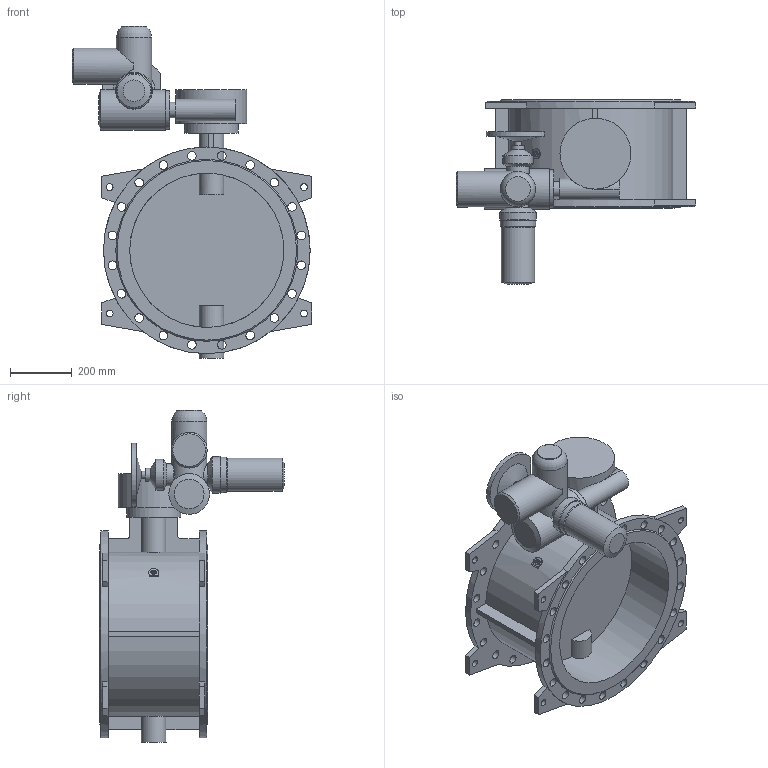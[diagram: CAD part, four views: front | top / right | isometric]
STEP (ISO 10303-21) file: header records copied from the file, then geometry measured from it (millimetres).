
FILE_DESCRIPTION(('STEP AP203'), '1');
FILE_NAME('Çàòâîð 023F.Z DN500 PN10 + ðåäóêòîð + ÌÒ903.À10', '', ('UNSPECIFIED'), ('UNSPECIFIED'), 'ASCON STEP Converter 1.6', 'ASCON Math Kernel', '');
FILE_SCHEMA(('CONFIG_CONTROL_DESIGN'));
Length unit declared in the file: millimetre
Bounding box: 776 x 598 x 1076 mm (x, y, z)
Volume: 42729387.6 mm3; surface area: 2999217 mm2
Topology: 1 solids, 1 shells, 228 faces, 561 edges, 368 vertices
Faces by surface type: plane 109, cylinder 107, cone 11, torus 1
Full cylindrical faces by diameter (mm): 8.5 x4, 12 x4, 14 x4, 18 x4, 22 x8, 24 x1, 28 x40, 42 x1, 50 x1, 66 x1, 70 x1, 72 x1, 80 x2, 100 x1, 108 x1, 114 x1, 115 x1, 116 x1, 119 x1, 125 x1, 132 x1, 175 x1, 230 x1, 500 x2, 670 x2
Entity records: 10492 total; most frequent: CARTESIAN_POINT 3301, DIRECTION 1112, ORIENTED_EDGE 918, AXIS2_PLACEMENT_3D 459, EDGE_CURVE 459, EDGE_LOOP 458, VERTEX_POINT 367, FACE_BOUND 272
